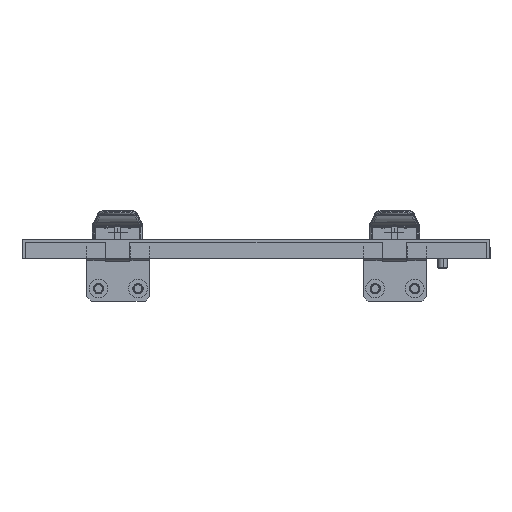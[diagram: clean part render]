
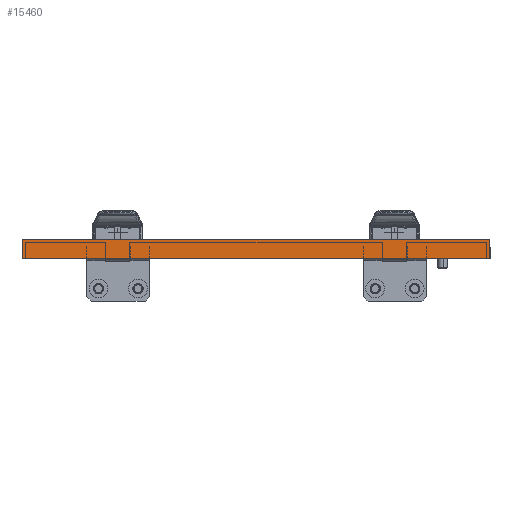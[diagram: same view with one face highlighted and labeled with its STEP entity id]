
A CAD part, left-side view. The second image highlights one B-rep face of the part: STEP entity #15460.
In plain terms, the highlighted planar face has unit normal (-1, 0, 0).
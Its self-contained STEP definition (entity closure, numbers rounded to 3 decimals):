
#131 = DIRECTION ( 'NONE',  ( 0., 0., -1. ) ) ;
#993 = CARTESIAN_POINT ( 'NONE',  ( -524.77, 69.953, 998.163 ) ) ;
#1115 = AXIS2_PLACEMENT_3D ( 'NONE', #5148, #7963, #20646 ) ;
#1464 = EDGE_CURVE ( 'NONE', #11243, #16041, #19290, .T. ) ;
#1742 = VERTEX_POINT ( 'NONE', #12130 ) ;
#1792 = LINE ( 'NONE', #8158, #1964 ) ;
#1964 = VECTOR ( 'NONE', #14539, 1000. ) ;
#2242 = CARTESIAN_POINT ( 'NONE',  ( -524.77, 217.953, 998.163 ) ) ;
#2698 = CARTESIAN_POINT ( 'NONE',  ( -524.77, -78.047, 985.663 ) ) ;
#4336 = ORIENTED_EDGE ( 'NONE', *, *, #18418, .T. ) ;
#5148 = CARTESIAN_POINT ( 'NONE',  ( -524.77, 178.278, 996.163 ) ) ;
#5918 = LINE ( 'NONE', #993, #8269 ) ;
#7963 = DIRECTION ( 'NONE',  ( -1., 0., 0. ) ) ;
#8147 = VECTOR ( 'NONE', #19595, 1000. ) ;
#8158 = CARTESIAN_POINT ( 'NONE',  ( -524.77, -78.047, 1001.001 ) ) ;
#8164 = ORIENTED_EDGE ( 'NONE', *, *, #18888, .F. ) ;
#8269 = VECTOR ( 'NONE', #18795, 1000. ) ;
#8490 = CARTESIAN_POINT ( 'NONE',  ( -524.77, 178.278, 985.663 ) ) ;
#9638 = LINE ( 'NONE', #8490, #8147 ) ;
#9736 = FACE_OUTER_BOUND ( 'NONE', #18277, .T. ) ;
#9756 = VECTOR ( 'NONE', #131, 1000. ) ;
#10151 = ORIENTED_EDGE ( 'NONE', *, *, #17396, .T. ) ;
#10641 = VERTEX_POINT ( 'NONE', #2698 ) ;
#10919 = ORIENTED_EDGE ( 'NONE', *, *, #1464, .T. ) ;
#11243 = VERTEX_POINT ( 'NONE', #2242 ) ;
#12130 = CARTESIAN_POINT ( 'NONE',  ( -524.77, -78.047, 998.163 ) ) ;
#13160 = CARTESIAN_POINT ( 'NONE',  ( -524.77, 217.953, 985.663 ) ) ;
#14539 = DIRECTION ( 'NONE',  ( 0., 0., -1. ) ) ;
#15460 = ADVANCED_FACE ( 'NONE', ( #9736 ), #17609, .T. ) ;
#15937 = CARTESIAN_POINT ( 'NONE',  ( -524.77, 217.953, 1001.001 ) ) ;
#16041 = VERTEX_POINT ( 'NONE', #13160 ) ;
#17396 = EDGE_CURVE ( 'NONE', #16041, #10641, #9638, .T. ) ;
#17609 = PLANE ( 'NONE',  #1115 ) ;
#18277 = EDGE_LOOP ( 'NONE', ( #10919, #10151, #8164, #4336 ) ) ;
#18418 = EDGE_CURVE ( 'NONE', #1742, #11243, #5918, .T. ) ;
#18795 = DIRECTION ( 'NONE',  ( 0., 1., 0. ) ) ;
#18888 = EDGE_CURVE ( 'NONE', #1742, #10641, #1792, .T. ) ;
#19290 = LINE ( 'NONE', #15937, #9756 ) ;
#19595 = DIRECTION ( 'NONE',  ( 0., -1., 0. ) ) ;
#20646 = DIRECTION ( 'NONE',  ( 0., 0., 1. ) ) ;
